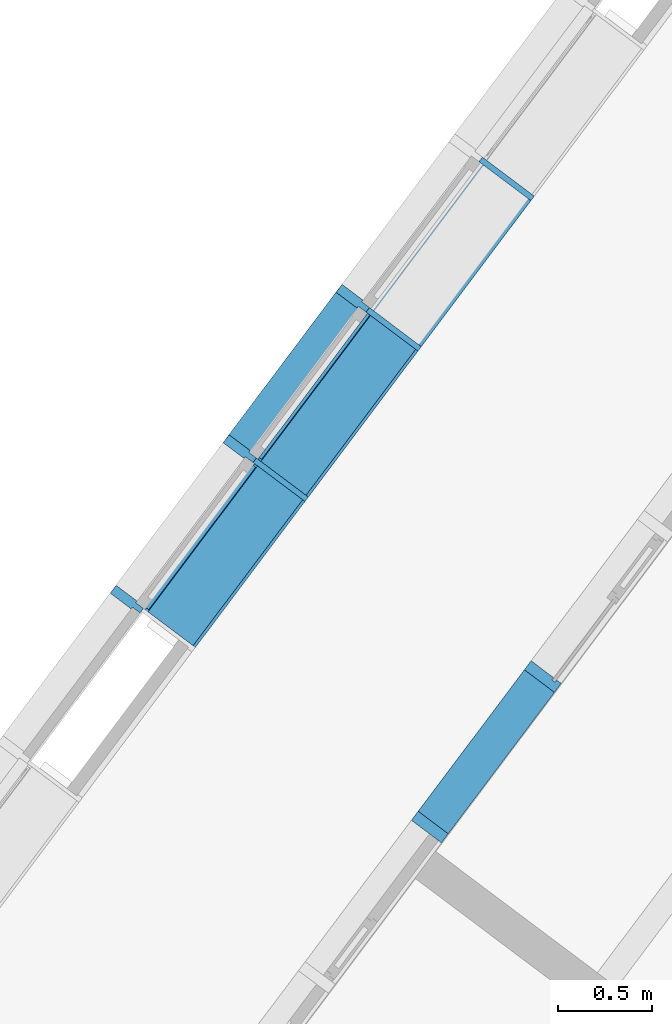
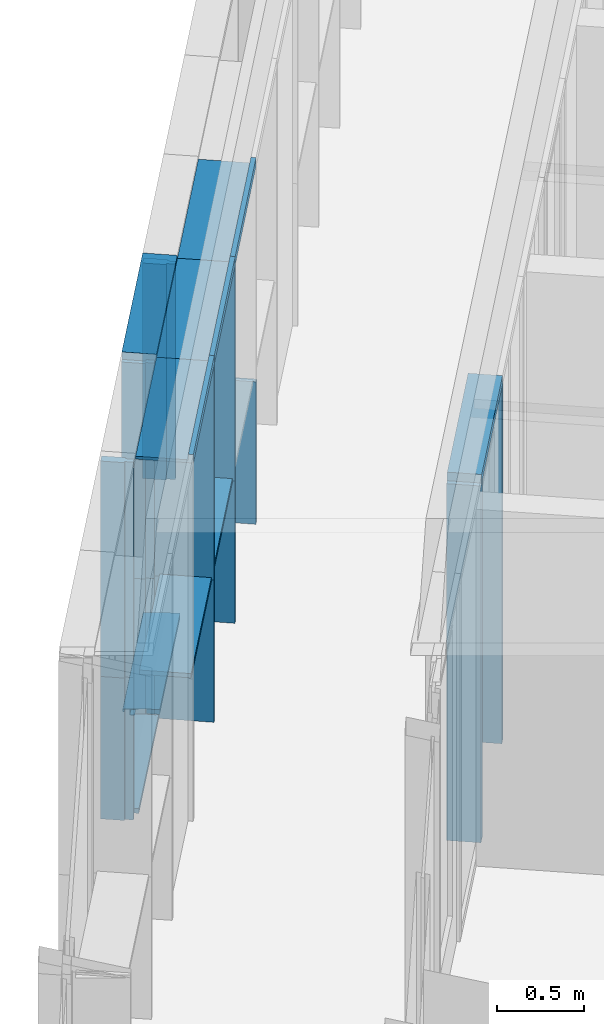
# One storey, part 21 of 243: 21 members, 3 elements without a shape of their own.
"""IFC2X3 building model written with IfcOpenShell, lengths in metres."""

from ifc_helpers import new_model, entity, si_unit, converted_unit, derived_unit, direction, frame, frame_2d, origin, place, context, subcontext, project, spatial, polyline, circle_curve, parameter, trimmed, segment, composite_curve, rectangle, outline, extrude, source, transform, mapped, material, type_object, type_shapes, element, aggregate, save


model = new_model("IFC2X3")

# Units and contexts
model_context = context("Model", 3, precision=1e-05, world=origin(), true_north=direction((6.123031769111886e-17, 1.0)))
body_context = subcontext(model_context, "Body", "Model", "MODEL_VIEW")
ifc_project = project(units=[si_unit("LENGTHUNIT", "METRE"), si_unit("AREAUNIT", "SQUARE_METRE"), si_unit("VOLUMEUNIT", "CUBIC_METRE"), converted_unit("PLANEANGLEUNIT", "DEGREE", entity("IfcRatioMeasure", 0.017453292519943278), si_unit("PLANEANGLEUNIT", "RADIAN"), dimensions=[0, 0, 0, 0, 0, 0, 0]), si_unit("MASSUNIT", "GRAM", prefix="KILO"), derived_unit("MASSDENSITYUNIT", [(si_unit("MASSUNIT", "GRAM", prefix="KILO"), 1), (si_unit("LENGTHUNIT", "METRE"), -3)]), derived_unit("IONCONCENTRATIONUNIT", [(si_unit("MASSUNIT", "GRAM", prefix="KILO"), 1), (si_unit("LENGTHUNIT", "METRE"), -3)]), derived_unit("MOMENTOFINERTIAUNIT", [(si_unit("LENGTHUNIT", "METRE"), 4)]), si_unit("TIMEUNIT", "SECOND"), si_unit("FREQUENCYUNIT", "HERTZ"), si_unit("THERMODYNAMICTEMPERATUREUNIT", "DEGREE_CELSIUS"), derived_unit("THERMALTRANSMITTANCEUNIT", [(si_unit("MASSUNIT", "GRAM", prefix="KILO"), 1), (si_unit("THERMODYNAMICTEMPERATUREUNIT", "KELVIN"), -1), (si_unit("TIMEUNIT", "SECOND"), -3)]), derived_unit("THERMALCONDUCTANCEUNIT", [(si_unit("MASSUNIT", "GRAM", prefix="KILO"), 1), (si_unit("THERMODYNAMICTEMPERATUREUNIT", "KELVIN"), -1), (si_unit("TIMEUNIT", "SECOND"), -3), (si_unit("LENGTHUNIT", "METRE"), 1)]), derived_unit("VOLUMETRICFLOWRATEUNIT", [(si_unit("LENGTHUNIT", "METRE"), 3), (si_unit("TIMEUNIT", "SECOND"), -1)]), derived_unit("MASSFLOWRATEUNIT", [(si_unit("MASSUNIT", "GRAM", prefix="KILO"), 1), (si_unit("TIMEUNIT", "SECOND"), -1)]), derived_unit("ROTATIONALFREQUENCYUNIT", [(si_unit("TIMEUNIT", "SECOND"), -1)]), si_unit("ELECTRICCURRENTUNIT", "AMPERE"), si_unit("ELECTRICVOLTAGEUNIT", "VOLT"), si_unit("POWERUNIT", "WATT"), si_unit("FORCEUNIT", "NEWTON", prefix="KILO"), si_unit("ILLUMINANCEUNIT", "LUX"), si_unit("LUMINOUSFLUXUNIT", "LUMEN"), si_unit("LUMINOUSINTENSITYUNIT", "CANDELA"), derived_unit("USERDEFINED", [(si_unit("MASSUNIT", "GRAM", prefix="KILO"), -1), (si_unit("LENGTHUNIT", "METRE"), -2), (si_unit("TIMEUNIT", "SECOND"), 3), (si_unit("LUMINOUSFLUXUNIT", "LUMEN"), 1)]), derived_unit("USERDEFINED", [(si_unit("MASSUNIT", "GRAM", prefix="KILO"), 1), (si_unit("TIMEUNIT", "SECOND"), -3), (si_unit("LENGTHUNIT", "METRE"), 3), (si_unit("ELECTRICCURRENTUNIT", "AMPERE"), -2)]), derived_unit("SOUNDPOWERUNIT", [(si_unit("MASSUNIT", "GRAM", prefix="KILO"), 1), (si_unit("TIMEUNIT", "SECOND"), -3), (si_unit("LENGTHUNIT", "METRE"), 2)]), derived_unit("SOUNDPRESSUREUNIT", [(si_unit("MASSUNIT", "GRAM", prefix="KILO"), 1), (si_unit("LENGTHUNIT", "METRE"), -1), (si_unit("TIMEUNIT", "SECOND"), -2)]), derived_unit("LINEARVELOCITYUNIT", [(si_unit("LENGTHUNIT", "METRE"), 1), (si_unit("TIMEUNIT", "SECOND"), -1)]), si_unit("PRESSUREUNIT", "PASCAL"), derived_unit("USERDEFINED", [(si_unit("MASSUNIT", "GRAM", prefix="KILO"), 1), (si_unit("LENGTHUNIT", "METRE"), -2), (si_unit("TIMEUNIT", "SECOND"), -2)]), derived_unit("LINEARFORCEUNIT", [(si_unit("MASSUNIT", "GRAM", prefix="KILO"), 1), (si_unit("TIMEUNIT", "SECOND"), -2)]), derived_unit("PLANARFORCEUNIT", [(si_unit("MASSUNIT", "GRAM", prefix="KILO"), 1), (si_unit("LENGTHUNIT", "METRE"), -1), (si_unit("TIMEUNIT", "SECOND"), -2)]), derived_unit("SPECIFICHEATCAPACITYUNIT", [(si_unit("THERMODYNAMICTEMPERATUREUNIT", "KELVIN"), -1), (si_unit("LENGTHUNIT", "METRE"), 2), (si_unit("TIMEUNIT", "SECOND"), -2)]), derived_unit("HEATINGVALUEUNIT", [(si_unit("LENGTHUNIT", "METRE"), 2), (si_unit("TIMEUNIT", "SECOND"), -2)]), derived_unit("VAPORPERMEABILITYUNIT", [(si_unit("LENGTHUNIT", "METRE"), -1), (si_unit("TIMEUNIT", "SECOND"), 1)]), derived_unit("DYNAMICVISCOSITYUNIT", [(si_unit("MASSUNIT", "GRAM", prefix="KILO"), 1), (si_unit("TIMEUNIT", "SECOND"), -1), (si_unit("LENGTHUNIT", "METRE"), -1)]), derived_unit("THERMALEXPANSIONCOEFFICIENTUNIT", [(si_unit("THERMODYNAMICTEMPERATUREUNIT", "KELVIN"), -1)]), derived_unit("MODULUSOFELASTICITYUNIT", [(si_unit("MASSUNIT", "GRAM", prefix="KILO"), 1), (si_unit("LENGTHUNIT", "METRE"), -1), (si_unit("TIMEUNIT", "SECOND"), -2)]), derived_unit("ISOTHERMALMOISTURECAPACITYUNIT", [(si_unit("LENGTHUNIT", "METRE"), 3), (si_unit("MASSUNIT", "GRAM", prefix="KILO"), -1)]), derived_unit("MOISTUREDIFFUSIVITYUNIT", [(si_unit("TIMEUNIT", "SECOND"), -1), (si_unit("LENGTHUNIT", "METRE"), 2)])], contexts=[model_context])

# Site, building, storey
site_placement = place(None, frame((0.0, 0.0, 235.0), z_axis=(0.0, 0.0, 1.0), x_axis=(-0.7996477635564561, 0.6004693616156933, 0.0)))
site = spatial("IfcSite", under=ifc_project, at=site_placement, Name="Default", CompositionType="ELEMENT")
building_placement = place(site_placement, origin())
building = spatial("IfcBuilding", under=site, at=building_placement, CompositionType="ELEMENT")
storey_placement = place(building_placement, origin())
storey = spatial("IfcBuildingStorey", under=building, at=storey_placement, Name="P0- Escola", CompositionType="ELEMENT", Elevation=0.0)

# Curtain wall, members
curtain_wall_type_1 = type_object("IfcCurtainWallType", Name="Muro cortina:MC- INT- a2", PredefinedType="NOTDEFINED")
curtain_wall_1_placement = place(storey_placement, origin())
curtain_wall_1 = element("IfcCurtainWall", 1, at=curtain_wall_1_placement, inside=storey, type_object=curtain_wall_type_1, Name="Muro cortina:MC- INT- a2", ObjectType="Muro cortina:MC- INT- a2")
ifc_material_1 = material(Name="_Fusta massisa- T1")
member_type_1 = type_object("IfcMemberType", Name="Montante rectangular:MC- Fusta- 20x6 cm- Esquerra", PredefinedType="MULLION", material=ifc_material_1)
shared_shape_1 = source(origin(), body_context, "Body", "SweptSolid", [
    extrude(outline(polyline([(-0.13, -0.018750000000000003), (0.02, -0.018750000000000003), (0.02, -0.003750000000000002), (0.04000000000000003, -0.003750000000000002), (0.04000000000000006, -0.01875000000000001), (0.07000000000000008, -0.018750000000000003), (0.06999999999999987, 0.041249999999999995), (-0.13, 0.041249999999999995), (-0.13, -0.018750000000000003)])), frame((-0.01124999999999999, 0.029999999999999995, -2.5050000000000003), z_axis=(0.0, 0.0, 1.0), x_axis=(0.0, -1.0, 0.0)), (0.0, 0.0, 1.0), 2.5050000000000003),
])
type_shapes(member_type_1, [shared_shape_1])
member_1_placement = place(curtain_wall_1_placement, frame((34.62014768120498, -26.415191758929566, 0.0), z_axis=(0.0, 0.0, -1.0), x_axis=(0.0, 1.0, 0.0)))
member_1 = element("IfcMember", 2, at=member_1_placement, type_object=member_type_1, material=ifc_material_1, Name="Montante rectangular:MC- Fusta- 20x6 cm- Esquerra", ObjectType="Montante rectangular:MC- Fusta- 20x6 cm- Esquerra", context=body_context, shape_type="MappedRepresentation", body=[
    mapped(shared_shape_1, transform((0.0, 0.0, 0.0), scale=1.0)),
])
member_type_2 = type_object("IfcMemberType", Name="Montante rectangular:MC- Fusta- 20x6 cm- Neutre", PredefinedType="MULLION", material=ifc_material_1)
shared_shape_2 = source(origin(), body_context, "Body", "SweptSolid", [
    extrude(rectangle(XDim=0.2, YDim=0.06, at=frame_2d((-5.551115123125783e-17, 0.0), x_axis=(1.0, 0.0))), frame((0.0, 0.060000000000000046, -2.5050000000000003), z_axis=(0.0, 0.0, 1.0), x_axis=(0.0, -1.0, 0.0)), (0.0, 0.0, 1.0), 2.5050000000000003),
])
type_shapes(member_type_2, [shared_shape_2])
member_2_placement = place(curtain_wall_1_placement, frame((34.62014768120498, -25.41519175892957, 0.0), z_axis=(0.0, 0.0, -1.0), x_axis=(0.0, 1.0, 0.0)))
member_2 = element("IfcMember", 3, at=member_2_placement, type_object=member_type_2, material=ifc_material_1, Name="Montante rectangular:MC- Fusta- 20x6 cm- Neutre", ObjectType="Montante rectangular:MC- Fusta- 20x6 cm- Neutre", context=body_context, shape_type="MappedRepresentation", body=[
    mapped(shared_shape_2, transform((0.0, 0.0, 0.0), scale=1.0)),
])
member_type_3 = type_object("IfcMemberType", Name="Montante rectangular:MC- Fusta- 20x6 cm- Neutre", PredefinedType="MULLION", material=ifc_material_1)
shared_shape_3 = source(origin(), body_context, "Body", "SweptSolid", [
    extrude(rectangle(XDim=0.20000000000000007, YDim=0.06, at=frame_2d((-5.551115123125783e-17, 0.0), x_axis=(1.0, 0.0))), frame((-0.03, 0.06000000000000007, -1.0), z_axis=(0.0, 0.0, 1.0), x_axis=(0.0, -1.0, 0.0)), (0.0, 0.0, 1.0), 0.9999999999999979),
])
type_shapes(member_type_3, [shared_shape_3])
member_3_placement = place(curtain_wall_1_placement, frame((34.62014768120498, -25.41519175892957, 2.565), z_axis=(0.0, 1.0, 0.0), x_axis=(0.0, 0.0, 1.0)))
member_3 = element("IfcMember", 4, at=member_3_placement, type_object=member_type_3, material=ifc_material_1, Name="Montante rectangular:MC- Fusta- 20x6 cm- Neutre", ObjectType="Montante rectangular:MC- Fusta- 20x6 cm- Neutre", context=body_context, shape_type="MappedRepresentation", body=[
    mapped(shared_shape_3, transform((0.0, 0.0, 0.0), scale=1.0)),
])
aggregate(curtain_wall_1, [member_1, member_3, member_2])

curtain_wall_type_2 = type_object("IfcCurtainWallType", Name="Muro cortina:MC- INT- k2", PredefinedType="NOTDEFINED")
curtain_wall_2_placement = place(storey_placement, origin())
curtain_wall_2 = element("IfcCurtainWall", 5, at=curtain_wall_2_placement, inside=storey, type_object=curtain_wall_type_2, Name="Muro cortina:MC- INT- k2", ObjectType="Muro cortina:MC- INT- k2")
member_type_4 = type_object("IfcMemberType", Name="Montante rectangular:MC- Fusta- 35x3 cm- Pati aules- Remat superior", PredefinedType="MULLION", material=ifc_material_1)
shared_shape_4 = source(origin(), body_context, "Body", "SweptSolid", [
    extrude(outline(polyline([(-0.12166666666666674, -0.02666666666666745), (0.21333333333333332, -0.02666666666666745), (0.2133333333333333, -0.006666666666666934), (-0.09166666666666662, -0.006666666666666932), (-0.09166666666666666, 0.03333333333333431), (-0.12166666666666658, 0.03333333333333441), (-0.12166666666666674, -0.02666666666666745)])), frame((-0.033333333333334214, -0.026666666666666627, -1.0), z_axis=(0.0, 0.0, 1.0), x_axis=(0.0, -1.0, 0.0)), (0.0, 0.0, 1.0), 0.9999999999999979),
])
type_shapes(member_type_4, [shared_shape_4])
member_4_placement = place(curtain_wall_2_placement, frame((36.34514768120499, -26.415191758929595, 2.565), z_axis=(0.0, -1.0, 0.0), x_axis=(0.0, 0.0, 1.0)))
member_4 = element("IfcMember", 6, at=member_4_placement, type_object=member_type_4, material=ifc_material_1, Name="Montante rectangular:MC- Fusta- 35x3 cm- Pati aules- Remat superior", ObjectType="Montante rectangular:MC- Fusta- 35x3 cm- Pati aules- Remat superior", context=body_context, shape_type="MappedRepresentation", body=[
    mapped(shared_shape_4, transform((0.0, 0.0, 0.0), scale=1.0)),
])
member_type_5 = type_object("IfcMemberType", Name="Montante rectangular:MC- Fusta- 35x3 cm- Centre", PredefinedType="MULLION", material=ifc_material_1)
shared_shape_5 = source(origin(), body_context, "Body", "SweptSolid", [
    extrude(rectangle(XDim=0.3450000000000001, YDim=0.030000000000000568, at=frame_2d((0.0, -1.3964523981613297e-16), x_axis=(1.0, 0.0))), frame((0.0, -0.07750000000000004, -1.0), z_axis=(0.0, 0.0, 1.0), x_axis=(0.0, -1.0, 0.0)), (0.0, 0.0, 1.0), 1.0),
])
type_shapes(member_type_5, [shared_shape_5])
member_5_placement = place(curtain_wall_2_placement, frame((36.34514768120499, -26.415191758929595, 0.0), z_axis=(0.0, 0.0, -1.0), x_axis=(0.0, -1.0, 0.0)))
member_5 = element("IfcMember", 7, at=member_5_placement, type_object=member_type_5, material=ifc_material_1, Name="Montante rectangular:MC- Fusta- 35x3 cm- Centre", ObjectType="Montante rectangular:MC- Fusta- 35x3 cm- Centre", context=body_context, shape_type="MappedRepresentation", body=[
    mapped(shared_shape_5, transform((0.0, 0.0, 0.0), scale=1.0)),
])
member_6_placement = place(curtain_wall_2_placement, frame((36.34514768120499, -27.41519175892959, 0.0), z_axis=(0.0, 0.0, -1.0), x_axis=(0.0, -1.0, 0.0)))
member_6 = element("IfcMember", 8, at=member_6_placement, type_object=member_type_5, material=ifc_material_1, Name="Montante rectangular:MC- Fusta- 35x3 cm- Centre", ObjectType="Montante rectangular:MC- Fusta- 35x3 cm- Centre", context=body_context, shape_type="MappedRepresentation", body=[
    mapped(shared_shape_5, transform((0.0, 0.0, 0.0), scale=1.0)),
])
member_7_placement = place(curtain_wall_2_placement, frame((36.34514768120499, -28.415191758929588, 0.0), z_axis=(0.0, 0.0, -1.0), x_axis=(0.0, -1.0, 0.0)))
member_7 = element("IfcMember", 9, at=member_7_placement, type_object=member_type_5, material=ifc_material_1, Name="Montante rectangular:MC- Fusta- 35x3 cm- Centre", ObjectType="Montante rectangular:MC- Fusta- 35x3 cm- Centre", context=body_context, shape_type="MappedRepresentation", body=[
    mapped(shared_shape_5, transform((0.0, 0.0, 0.0), scale=1.0)),
])
member_type_6 = type_object("IfcMemberType", Name="Montante rectangular:MC- Fusta- 35x3 cm- Pati aules- Remat superior", PredefinedType="MULLION", material=ifc_material_1)
shared_shape_6 = source(origin(), body_context, "Body", "SweptSolid", [
    extrude(outline(polyline([(-0.12166666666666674, -0.02666666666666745), (0.21333333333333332, -0.02666666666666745), (0.2133333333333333, -0.006666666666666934), (-0.09166666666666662, -0.006666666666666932), (-0.09166666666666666, 0.03333333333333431), (-0.12166666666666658, 0.03333333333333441), (-0.12166666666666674, -0.02666666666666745)])), frame((-0.033333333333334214, -0.026666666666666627, -1.0), z_axis=(0.0, 0.0, 1.0), x_axis=(0.0, -1.0, 0.0)), (0.0, 0.0, 1.0), 0.9999999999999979),
])
type_shapes(member_type_6, [shared_shape_6])
member_8_placement = place(curtain_wall_2_placement, frame((36.34514768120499, -27.41519175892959, 2.565), z_axis=(0.0, -1.0, 0.0), x_axis=(0.0, 0.0, 1.0)))
member_8 = element("IfcMember", 10, at=member_8_placement, type_object=member_type_6, material=ifc_material_1, Name="Montante rectangular:MC- Fusta- 35x3 cm- Pati aules- Remat superior", ObjectType="Montante rectangular:MC- Fusta- 35x3 cm- Pati aules- Remat superior", context=body_context, shape_type="MappedRepresentation", body=[
    mapped(shared_shape_6, transform((0.0, 0.0, 0.0), scale=1.0)),
])
member_9_placement = place(curtain_wall_2_placement, frame((36.34514768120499, -28.415191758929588, 2.565), z_axis=(0.0, -1.0, 0.0), x_axis=(0.0, 0.0, 1.0)))
member_9 = element("IfcMember", 11, at=member_9_placement, type_object=member_type_6, material=ifc_material_1, Name="Montante rectangular:MC- Fusta- 35x3 cm- Pati aules- Remat superior", ObjectType="Montante rectangular:MC- Fusta- 35x3 cm- Pati aules- Remat superior", context=body_context, shape_type="MappedRepresentation", body=[
    mapped(shared_shape_6, transform((0.0, 0.0, 0.0), scale=1.0)),
])
member_type_7 = type_object("IfcMemberType", Name="Montante rectangular:MC- Fusta- 35x3 cm- Pati aules- Prestatge", PredefinedType="MULLION", material=ifc_material_1)
shared_shape_7 = source(origin(), body_context, "Body", "SweptSolid", [
    extrude(rectangle(XDim=0.30000000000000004, YDim=0.03000000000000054, at=frame_2d((0.0, -1.231653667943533e-16), x_axis=(1.0, 0.0))), frame((0.0, -0.07000000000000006, -0.9699999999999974), z_axis=(0.0, 0.0, 1.0), x_axis=(0.0, -1.0, 0.0)), (0.0, 0.0, 1.0), 0.969999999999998),
])
type_shapes(member_type_7, [shared_shape_7])
member_10_placement = place(curtain_wall_2_placement, frame((36.34514768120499, -26.400191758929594, 1.0), z_axis=(0.0, -1.0, 0.0), x_axis=(0.0, 0.0, 1.0)))
member_10 = element("IfcMember", 12, at=member_10_placement, type_object=member_type_7, material=ifc_material_1, Name="Montante rectangular:MC- Fusta- 35x3 cm- Pati aules- Prestatge", ObjectType="Montante rectangular:MC- Fusta- 35x3 cm- Pati aules- Prestatge", context=body_context, shape_type="MappedRepresentation", body=[
    mapped(shared_shape_7, transform((0.0, 0.0, 0.0), scale=1.0)),
])
member_11_placement = place(curtain_wall_2_placement, frame((36.34514768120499, -27.40019175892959, 1.0), z_axis=(0.0, -1.0, 0.0), x_axis=(0.0, 0.0, 1.0)))
member_11 = element("IfcMember", 13, at=member_11_placement, type_object=member_type_7, material=ifc_material_1, Name="Montante rectangular:MC- Fusta- 35x3 cm- Pati aules- Prestatge", ObjectType="Montante rectangular:MC- Fusta- 35x3 cm- Pati aules- Prestatge", context=body_context, shape_type="MappedRepresentation", body=[
    mapped(shared_shape_7, transform((0.0, 0.0, 0.0), scale=1.0)),
])
member_type_8 = type_object("IfcMemberType", Name="Montante rectangular:MC- Fusta- 35x3 cm- Centre", PredefinedType="MULLION", material=ifc_material_1)
shared_shape_8 = source(origin(), body_context, "Body", "SweptSolid", [
    extrude(rectangle(XDim=0.3450000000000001, YDim=0.030000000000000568, at=frame_2d((0.0, -1.3964523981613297e-16), x_axis=(1.0, 0.0))), frame((0.0, -0.07750000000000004, -1.504999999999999), z_axis=(0.0, 0.0, 1.0), x_axis=(0.0, -1.0, 0.0)), (0.0, 0.0, 1.0), 1.504999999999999),
])
type_shapes(member_type_8, [shared_shape_8])
member_12_placement = place(curtain_wall_2_placement, frame((36.34514768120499, -26.415191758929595, 1.0), z_axis=(0.0, 0.0, -1.0), x_axis=(0.0, -1.0, 0.0)))
member_12 = element("IfcMember", 14, at=member_12_placement, type_object=member_type_8, material=ifc_material_1, Name="Montante rectangular:MC- Fusta- 35x3 cm- Centre", ObjectType="Montante rectangular:MC- Fusta- 35x3 cm- Centre", context=body_context, shape_type="MappedRepresentation", body=[
    mapped(shared_shape_8, transform((0.0, 0.0, 0.0), scale=1.0)),
])
member_13_placement = place(curtain_wall_2_placement, frame((36.34514768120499, -27.41519175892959, 1.0), z_axis=(0.0, 0.0, -1.0), x_axis=(0.0, -1.0, 0.0)))
member_13 = element("IfcMember", 15, at=member_13_placement, type_object=member_type_8, material=ifc_material_1, Name="Montante rectangular:MC- Fusta- 35x3 cm- Centre", ObjectType="Montante rectangular:MC- Fusta- 35x3 cm- Centre", context=body_context, shape_type="MappedRepresentation", body=[
    mapped(shared_shape_8, transform((0.0, 0.0, 0.0), scale=1.0)),
])
aggregate(curtain_wall_2, [member_4, member_5, member_8, member_6, member_9, member_7, member_10, member_11, member_12, member_13])

curtain_wall_type_3 = type_object("IfcCurtainWallType", Name="Muro cortina:MC- EXT- MC5", PredefinedType="NOTDEFINED")
curtain_wall_3_placement = place(storey_placement, origin())
curtain_wall_3 = element("IfcCurtainWall", 16, at=curtain_wall_3_placement, inside=storey, type_object=curtain_wall_type_3, Name="Muro cortina:MC- EXT- MC5", ObjectType="Muro cortina:MC- EXT- MC5")
ifc_material_2 = material(Name="_Alumini- T1- Perfil")
member_type_9 = type_object("IfcMemberType", Name="Montante rectangular:MC- Alu- 140x52,5 cm- Fa patis- inferior", PredefinedType="MULLION", material=ifc_material_2)
shared_shape_9 = source(origin(), body_context, "Body", "SweptSolid", [
    extrude(outline(composite_curve([segment(polyline([(-0.144167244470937, -0.02586710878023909), (-0.12786724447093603, -0.025867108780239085)]), True, "CONTINUOUS"), segment(polyline([(-0.12786724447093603, -0.025867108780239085), (-0.12786724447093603, -0.02316710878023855)]), True, "CONTINUOUS"), segment(polyline([(-0.12786724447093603, -0.02316710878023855), (-0.0678672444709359, -0.02316710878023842)]), True, "CONTINUOUS"), segment(polyline([(-0.0678672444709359, -0.02316710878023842), (0.07031215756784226, -0.010722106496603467)]), True, "CONTINUOUS"), segment(trimmed(circle_curve(frame_2d((0.07013275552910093, -0.008730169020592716), x_axis=(0.0897010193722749, -0.9959687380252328)), 0.0019999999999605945), [parameter(0.0)], [parameter(84.8535928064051)], True, "PARAMETER"), True, "CONTINUOUS"), segment(polyline([(0.07213275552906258, -0.00873016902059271), (0.07213275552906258, 0.0062663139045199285)]), True, "CONTINUOUS"), segment(trimmed(circle_curve(frame_2d((0.070132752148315, 0.006266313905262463), x_axis=(1.0, 0.0)), 0.002000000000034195), [parameter(0.0)], [parameter(90.00000002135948)], True, "PARAMETER"), True, "CONTINUOUS"), segment(polyline([(0.070132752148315, 0.00826631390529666), (0.06213275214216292, 0.008266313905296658)]), True, "CONTINUOUS"), segment(polyline([(0.06213275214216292, 0.008266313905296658), (0.06213275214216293, 0.006266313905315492)]), True, "CONTINUOUS"), segment(polyline([(0.06213275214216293, 0.006266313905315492), (0.06963275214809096, 0.006266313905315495)]), True, "CONTINUOUS"), segment(trimmed(circle_curve(frame_2d((0.06963275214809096, 0.005766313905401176), x_axis=(0.0, 1.0)), 0.0004999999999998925), [parameter(269.99999999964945)], [parameter(0.0)], True, "PARAMETER"), False, "CONTINUOUS"), segment(polyline([(0.07013275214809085, 0.0057663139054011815), (0.07013275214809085, -0.008730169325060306)]), True, "CONTINUOUS"), segment(polyline([(0.07013275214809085, -0.008730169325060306), (0.03213275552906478, -0.012152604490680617)]), True, "CONTINUOUS"), segment(polyline([(0.03213275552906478, -0.012152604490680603), (0.03213275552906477, 0.02913289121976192)]), True, "CONTINUOUS"), segment(polyline([(0.03213275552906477, 0.02913289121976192), (0.0021327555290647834, 0.02913289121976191)]), True, "CONTINUOUS"), segment(polyline([(0.0021327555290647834, 0.02913289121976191), (0.0021327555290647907, 0.027132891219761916)]), True, "CONTINUOUS"), segment(polyline([(0.0021327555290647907, 0.027132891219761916), (0.03013275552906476, 0.027132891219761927)]), True, "CONTINUOUS"), segment(polyline([(0.03013275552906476, 0.02713289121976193), (0.03013275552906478, -0.012332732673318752)]), True, "CONTINUOUS"), segment(polyline([(0.03013275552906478, -0.012332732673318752), (-0.06786724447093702, -0.021159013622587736)]), True, "CONTINUOUS"), segment(polyline([(-0.06786724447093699, -0.021159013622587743), (-0.067867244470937, 0.0091328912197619)]), True, "CONTINUOUS"), segment(polyline([(-0.06786724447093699, 0.0091328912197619), (-0.14416724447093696, 0.009132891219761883)]), True, "CONTINUOUS"), segment(polyline([(-0.14416724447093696, 0.009132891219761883), (-0.144167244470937, -0.02586710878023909)]), True, "CONTINUOUS")], self_intersect=False)), frame((-0.029132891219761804, -0.06786724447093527, -0.9474999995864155), z_axis=(0.0, 0.0, 1.0), x_axis=(0.0, -1.0, 0.0)), (0.0, 0.0, 1.0), 0.9474999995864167),
])
type_shapes(member_type_9, [shared_shape_9])
member_14_placement = place(curtain_wall_3_placement, frame((36.64514768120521, -25.441441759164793, -0.02), z_axis=(0.0, 1.0, 0.0), x_axis=(0.0, 0.0, -1.0)))
member_14 = element("IfcMember", 17, at=member_14_placement, type_object=member_type_9, material=ifc_material_2, Name="Montante rectangular:MC- Alu- 140x52,5 cm- Fa patis- inferior", ObjectType="Montante rectangular:MC- Alu- 140x52,5 cm- Fa patis- inferior", context=body_context, shape_type="MappedRepresentation", body=[
    mapped(shared_shape_9, transform((0.0, 0.0, 0.0), scale=1.0)),
])
member_type_10 = type_object("IfcMemberType", Name="Montante rectangular:MC- Alu- 140x52,5 cm- Fa patis- inferior", PredefinedType="MULLION", material=ifc_material_2)
shared_shape_10 = source(origin(), body_context, "Body", "SweptSolid", [
    extrude(outline(composite_curve([segment(polyline([(-0.144167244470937, -0.025867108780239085), (-0.12786724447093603, -0.02586710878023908)]), True, "CONTINUOUS"), segment(polyline([(-0.12786724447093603, -0.02586710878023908), (-0.12786724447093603, -0.023167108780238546)]), True, "CONTINUOUS"), segment(polyline([(-0.12786724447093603, -0.023167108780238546), (-0.0678672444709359, -0.023167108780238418)]), True, "CONTINUOUS"), segment(polyline([(-0.0678672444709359, -0.023167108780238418), (0.07031215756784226, -0.010722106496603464)]), True, "CONTINUOUS"), segment(trimmed(circle_curve(frame_2d((0.07013275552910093, -0.008730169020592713), x_axis=(0.0897010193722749, -0.9959687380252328)), 0.0019999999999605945), [parameter(0.0)], [parameter(84.8535928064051)], True, "PARAMETER"), True, "CONTINUOUS"), segment(polyline([(0.07213275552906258, -0.008730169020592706), (0.07213275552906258, 0.006266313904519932)]), True, "CONTINUOUS"), segment(trimmed(circle_curve(frame_2d((0.07013275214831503, 0.006266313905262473), x_axis=(1.0, 0.0)), 0.0020000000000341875), [parameter(0.0)], [parameter(90.00000002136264)], True, "PARAMETER"), True, "CONTINUOUS"), segment(polyline([(0.070132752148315, 0.008266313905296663), (0.06213275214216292, 0.008266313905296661)]), True, "CONTINUOUS"), segment(polyline([(0.06213275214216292, 0.008266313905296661), (0.06213275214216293, 0.006266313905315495)]), True, "CONTINUOUS"), segment(polyline([(0.06213275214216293, 0.006266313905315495), (0.06963275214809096, 0.006266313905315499)]), True, "CONTINUOUS"), segment(trimmed(circle_curve(frame_2d((0.06963275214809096, 0.005766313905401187), x_axis=(0.0, 1.0)), 0.0004999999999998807), [parameter(269.9999999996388)], [parameter(0.0)], True, "PARAMETER"), False, "CONTINUOUS"), segment(polyline([(0.07013275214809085, 0.005766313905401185), (0.07013275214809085, -0.008730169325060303)]), True, "CONTINUOUS"), segment(polyline([(0.07013275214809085, -0.008730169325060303), (0.03213275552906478, -0.012152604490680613)]), True, "CONTINUOUS"), segment(polyline([(0.03213275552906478, -0.0121526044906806), (0.03213275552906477, 0.029132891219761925)]), True, "CONTINUOUS"), segment(polyline([(0.03213275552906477, 0.029132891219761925), (0.0021327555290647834, 0.029132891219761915)]), True, "CONTINUOUS"), segment(polyline([(0.0021327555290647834, 0.029132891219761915), (0.0021327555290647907, 0.02713289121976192)]), True, "CONTINUOUS"), segment(polyline([(0.0021327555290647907, 0.02713289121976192), (0.03013275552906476, 0.02713289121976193)]), True, "CONTINUOUS"), segment(polyline([(0.03013275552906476, 0.027132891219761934), (0.03013275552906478, -0.012332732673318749)]), True, "CONTINUOUS"), segment(polyline([(0.03013275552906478, -0.012332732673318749), (-0.06786724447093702, -0.021159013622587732)]), True, "CONTINUOUS"), segment(polyline([(-0.06786724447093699, -0.02115901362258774), (-0.067867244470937, 0.009132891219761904)]), True, "CONTINUOUS"), segment(polyline([(-0.06786724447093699, 0.009132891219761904), (-0.14416724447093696, 0.009132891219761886)]), True, "CONTINUOUS"), segment(polyline([(-0.14416724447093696, 0.009132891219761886), (-0.144167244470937, -0.025867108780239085)]), True, "CONTINUOUS")], self_intersect=False)), frame((-0.029132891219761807, -0.06786724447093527, -0.9737499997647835), z_axis=(0.0, 0.0, 1.0), x_axis=(0.0, -1.0, 0.0)), (0.0, 0.0, 1.0), 0.9737499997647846),
])
type_shapes(member_type_10, [shared_shape_10])
member_15_placement = place(curtain_wall_3_placement, frame((36.64514768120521, -26.441441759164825, -0.02), z_axis=(0.0, 1.0, 0.0), x_axis=(0.0, 0.0, -1.0)))
member_15 = element("IfcMember", 18, at=member_15_placement, type_object=member_type_10, material=ifc_material_2, Name="Montante rectangular:MC- Alu- 140x52,5 cm- Fa patis- inferior", ObjectType="Montante rectangular:MC- Alu- 140x52,5 cm- Fa patis- inferior", context=body_context, shape_type="MappedRepresentation", body=[
    mapped(shared_shape_10, transform((0.0, 0.0, 0.0), scale=1.0)),
])
member_type_11 = type_object("IfcMemberType", Name="Montante rectangular:MC- Alu- 140x52,5 cm- Fa patis- Superior", PredefinedType="MULLION", material=ifc_material_2)
shared_shape_11 = source(origin(), body_context, "Body", "SweptSolid", [
    extrude(outline(polyline([(-0.026333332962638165, -0.021249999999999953), (0.11366666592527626, -0.021249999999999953), (0.11366666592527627, 0.031250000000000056), (-0.08733333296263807, 0.03125000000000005), (-0.0873333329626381, -0.010000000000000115), (-0.026333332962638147, -0.010000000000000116), (-0.026333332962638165, -0.021249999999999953)])), frame((-0.031250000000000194, -0.02733333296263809, -1.0), z_axis=(0.0, 0.0, 1.0), x_axis=(0.0, -1.0, 0.0)), (0.0, 0.0, 1.0), 1.0000000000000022),
])
type_shapes(member_type_11, [shared_shape_11])
member_16_placement = place(curtain_wall_3_placement, frame((36.645147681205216, -27.41519175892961, 2.545), z_axis=(0.0, -1.0, 0.0), x_axis=(0.0, 0.0, 1.0)))
member_16 = element("IfcMember", 19, at=member_16_placement, type_object=member_type_11, material=ifc_material_2, Name="Montante rectangular:MC- Alu- 140x52,5 cm- Fa patis- Superior", ObjectType="Montante rectangular:MC- Alu- 140x52,5 cm- Fa patis- Superior", context=body_context, shape_type="MappedRepresentation", body=[
    mapped(shared_shape_11, transform((0.0, 0.0, 0.0), scale=1.0)),
])
member_type_12 = type_object("IfcMemberType", Name="Montante rectangular:MC- Alu- 140x52,5 cm- Fa patis- Centre", PredefinedType="MULLION", material=ifc_material_2)
shared_shape_12 = source(origin(), body_context, "Body", "SweptSolid", [
    extrude(outline(polyline([(-0.021999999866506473, -0.026250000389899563), (0.11699999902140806, -0.026250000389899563), (0.11699999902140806, 0.026250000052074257), (-0.022000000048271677, 0.026250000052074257), (-0.022000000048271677, 0.015000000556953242), (-0.07299999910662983, 0.015000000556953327), (-0.07299999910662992, -0.01500000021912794), (-0.021999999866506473, -0.01500000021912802), (-0.021999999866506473, -0.026250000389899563)])), frame((0.0, -0.022999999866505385, -1.0), z_axis=(0.0, 0.0, 1.0), x_axis=(0.0, -1.0, 0.0)), (0.0, 0.0, 1.0), 1.0),
])
type_shapes(member_type_12, [shared_shape_12])
member_17_placement = place(curtain_wall_3_placement, frame((36.64514768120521, -26.41519175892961, -0.02), z_axis=(0.0, 0.0, -1.0), x_axis=(0.0, -1.0, 0.0)))
member_17 = element("IfcMember", 20, at=member_17_placement, type_object=member_type_12, material=ifc_material_2, Name="Montante rectangular:MC- Alu- 140x52,5 cm- Fa patis- Centre", ObjectType="Montante rectangular:MC- Alu- 140x52,5 cm- Fa patis- Centre", context=body_context, shape_type="MappedRepresentation", body=[
    mapped(shared_shape_12, transform((0.0, 0.0, 0.0), scale=1.0)),
])
member_18_placement = place(curtain_wall_3_placement, frame((36.64514768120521, -25.415191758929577, -0.02), z_axis=(0.0, 0.0, -1.0), x_axis=(0.0, -1.0, 0.0)))
member_18 = element("IfcMember", 21, at=member_18_placement, type_object=member_type_12, material=ifc_material_2, Name="Montante rectangular:MC- Alu- 140x52,5 cm- Fa patis- Centre", ObjectType="Montante rectangular:MC- Alu- 140x52,5 cm- Fa patis- Centre", context=body_context, shape_type="MappedRepresentation", body=[
    mapped(shared_shape_12, transform((0.0, 0.0, 0.0), scale=1.0)),
])
member_type_13 = type_object("IfcMemberType", Name="Montante rectangular:MC- Alu- 140x52,5 cm- Fa patis- Centre", PredefinedType="MULLION", material=ifc_material_2)
shared_shape_13 = source(origin(), body_context, "Body", "SweptSolid", [
    extrude(outline(polyline([(-0.021999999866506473, -0.026250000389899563), (0.11699999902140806, -0.026250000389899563), (0.11699999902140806, 0.026250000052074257), (-0.022000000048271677, 0.026250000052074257), (-0.022000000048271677, 0.015000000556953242), (-0.07299999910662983, 0.015000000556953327), (-0.07299999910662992, -0.01500000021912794), (-0.021999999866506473, -0.01500000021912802), (-0.021999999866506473, -0.026250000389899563)])), frame((0.0, -0.022999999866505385, -1.5124999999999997), z_axis=(0.0, 0.0, 1.0), x_axis=(0.0, -1.0, 0.0)), (0.0, 0.0, 1.0), 1.5124999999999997),
])
type_shapes(member_type_13, [shared_shape_13])
member_19_placement = place(curtain_wall_3_placement, frame((36.64514768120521, -25.415191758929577, 0.98), z_axis=(0.0, 0.0, -1.0), x_axis=(0.0, -1.0, 0.0)))
member_19 = element("IfcMember", 22, at=member_19_placement, type_object=member_type_13, material=ifc_material_2, Name="Montante rectangular:MC- Alu- 140x52,5 cm- Fa patis- Centre", ObjectType="Montante rectangular:MC- Alu- 140x52,5 cm- Fa patis- Centre", context=body_context, shape_type="MappedRepresentation", body=[
    mapped(shared_shape_13, transform((0.0, 0.0, 0.0), scale=1.0)),
])
member_20_placement = place(curtain_wall_3_placement, frame((36.64514768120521, -26.41519175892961, 0.98), z_axis=(0.0, 0.0, -1.0), x_axis=(0.0, -1.0, 0.0)))
member_20 = element("IfcMember", 23, at=member_20_placement, type_object=member_type_13, material=ifc_material_2, Name="Montante rectangular:MC- Alu- 140x52,5 cm- Fa patis- Centre", ObjectType="Montante rectangular:MC- Alu- 140x52,5 cm- Fa patis- Centre", context=body_context, shape_type="MappedRepresentation", body=[
    mapped(shared_shape_13, transform((0.0, 0.0, 0.0), scale=1.0)),
])
member_21_placement = place(curtain_wall_3_placement, frame((36.645147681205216, -27.41519175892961, 0.98), z_axis=(0.0, 0.0, -1.0), x_axis=(0.0, -1.0, 0.0)))
member_21 = element("IfcMember", 24, at=member_21_placement, type_object=member_type_13, material=ifc_material_2, Name="Montante rectangular:MC- Alu- 140x52,5 cm- Fa patis- Centre", ObjectType="Montante rectangular:MC- Alu- 140x52,5 cm- Fa patis- Centre", context=body_context, shape_type="MappedRepresentation", body=[
    mapped(shared_shape_13, transform((0.0, 0.0, 0.0), scale=1.0)),
])
aggregate(curtain_wall_3, [member_15, member_17, member_16, member_14, member_18, member_19, member_20, member_21])

save(model, "model.ifc")
